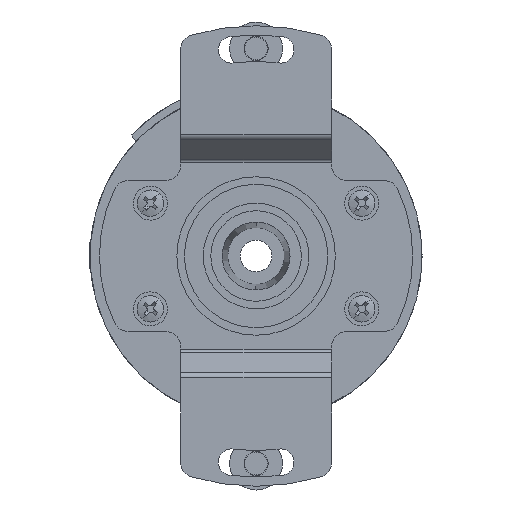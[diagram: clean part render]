
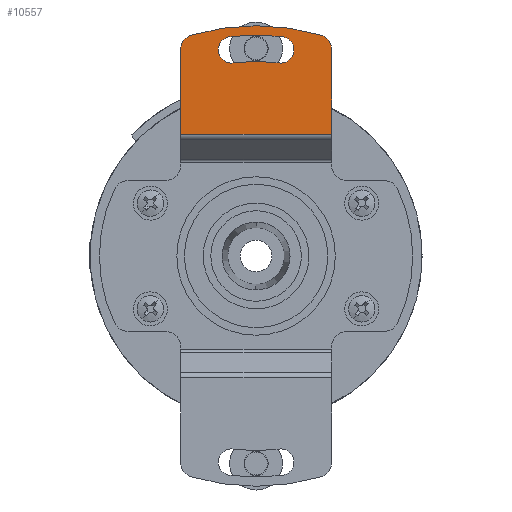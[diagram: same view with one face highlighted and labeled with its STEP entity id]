
A CAD part, front view. The second image highlights one B-rep face of the part: STEP entity #10557.
In plain terms, the highlighted planar face has unit normal (0, -1, 0).
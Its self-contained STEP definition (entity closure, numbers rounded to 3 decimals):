
#44 = VERTEX_POINT ( 'NONE', #8332 ) ;
#48 = DIRECTION ( 'NONE',  ( 0., 0., 1. ) ) ;
#53 = DIRECTION ( 'NONE',  ( 0., 0., 1. ) ) ;
#73 = AXIS2_PLACEMENT_3D ( 'NONE', #6099, #7408, #10243 ) ;
#134 = AXIS2_PLACEMENT_3D ( 'NONE', #4335, #14533, #48 ) ;
#201 = DIRECTION ( 'NONE',  ( 0., 0., 1. ) ) ;
#299 = PLANE ( 'NONE',  #73 ) ;
#579 = VERTEX_POINT ( 'NONE', #16776 ) ;
#839 = CIRCLE ( 'NONE', #15675, 1.75 ) ;
#918 = CARTESIAN_POINT ( 'NONE',  ( -25.57, -5.502, 3.043 ) ) ;
#1075 = EDGE_CURVE ( 'NONE', #11477, #2199, #4086, .T. ) ;
#1129 = CIRCLE ( 'NONE', #14144, 1.75 ) ;
#1203 = VECTOR ( 'NONE', #11312, 1000. ) ;
#1301 = DIRECTION ( 'NONE',  ( 0., 0., 1. ) ) ;
#1477 = CARTESIAN_POINT ( 'NONE',  ( 0., -5.502, 0. ) ) ;
#1503 = DIRECTION ( 'NONE',  ( 0., 0., -1. ) ) ;
#1533 = CIRCLE ( 'NONE', #2136, 30.5 ) ;
#1709 = CARTESIAN_POINT ( 'NONE',  ( -27.307, -5.502, -3.25 ) ) ;
#2136 = AXIS2_PLACEMENT_3D ( 'NONE', #16416, #6126, #11872 ) ;
#2153 = EDGE_LOOP ( 'NONE', ( #2321, #14232, #15640, #4517, #17085 ) ) ;
#2199 = VERTEX_POINT ( 'NONE', #13429 ) ;
#2321 = ORIENTED_EDGE ( 'NONE', *, *, #6141, .T. ) ;
#2685 = ORIENTED_EDGE ( 'NONE', *, *, #12615, .T. ) ;
#2912 = EDGE_CURVE ( 'NONE', #13088, #9688, #3463, .T. ) ;
#2956 = AXIS2_PLACEMENT_3D ( 'NONE', #1477, #15794, #53 ) ;
#3463 = CIRCLE ( 'NONE', #134, 2. ) ;
#3499 = CARTESIAN_POINT ( 'NONE',  ( 0., -5.502, 0. ) ) ;
#3729 = CARTESIAN_POINT ( 'NONE',  ( -16.119, -5.502, -10. ) ) ;
#4086 = CIRCLE ( 'NONE', #8599, 25.75 ) ;
#4335 = CARTESIAN_POINT ( 'NONE',  ( -27.354, -5.502, -8. ) ) ;
#4517 = ORIENTED_EDGE ( 'NONE', *, *, #1075, .T. ) ;
#4690 = EDGE_CURVE ( 'NONE', #44, #11477, #1129, .T. ) ;
#6099 = CARTESIAN_POINT ( 'NONE',  ( 0.173, -5.502, 0. ) ) ;
#6126 = DIRECTION ( 'NONE',  ( 0., -1., 0. ) ) ;
#6141 = EDGE_CURVE ( 'NONE', #8421, #579, #17219, .T. ) ;
#6327 = VERTEX_POINT ( 'NONE', #8631 ) ;
#6544 = CARTESIAN_POINT ( 'NONE',  ( -29.045, -5.502, -3.457 ) ) ;
#6602 = VERTEX_POINT ( 'NONE', #6654 ) ;
#6654 = CARTESIAN_POINT ( 'NONE',  ( -27.354, -5.502, 10. ) ) ;
#6773 = CARTESIAN_POINT ( 'NONE',  ( -16.119, -5.502, 10. ) ) ;
#6960 = ORIENTED_EDGE ( 'NONE', *, *, #12306, .F. ) ;
#7271 = EDGE_CURVE ( 'NONE', #579, #44, #839, .T. ) ;
#7295 = CARTESIAN_POINT ( 'NONE',  ( -27.307, -5.502, 3.25 ) ) ;
#7319 = FACE_OUTER_BOUND ( 'NONE', #15732, .T. ) ;
#7408 = DIRECTION ( 'NONE',  ( 0., 1., 0. ) ) ;
#7497 = CARTESIAN_POINT ( 'NONE',  ( -27.354, -5.502, 8. ) ) ;
#8184 = ORIENTED_EDGE ( 'NONE', *, *, #16029, .T. ) ;
#8332 = CARTESIAN_POINT ( 'NONE',  ( -27.307, -5.502, 5. ) ) ;
#8421 = VERTEX_POINT ( 'NONE', #6544 ) ;
#8473 = ORIENTED_EDGE ( 'NONE', *, *, #2912, .T. ) ;
#8599 = AXIS2_PLACEMENT_3D ( 'NONE', #3499, #12110, #14946 ) ;
#8631 = CARTESIAN_POINT ( 'NONE',  ( -29.274, -5.502, 8.561 ) ) ;
#8698 = DIRECTION ( 'NONE',  ( 0., 1., 0. ) ) ;
#8911 = DIRECTION ( 'NONE',  ( 0., 1., 0. ) ) ;
#9688 = VERTEX_POINT ( 'NONE', #11076 ) ;
#10125 = CARTESIAN_POINT ( 'NONE',  ( -16.119, -5.502, -10. ) ) ;
#10210 = DIRECTION ( 'NONE',  ( 0., 1., 0. ) ) ;
#10243 = DIRECTION ( 'NONE',  ( 0., 0., 1. ) ) ;
#10442 = VERTEX_POINT ( 'NONE', #6773 ) ;
#10557 = ADVANCED_FACE ( 'NONE', ( #16038, #7319 ), #299, .F. ) ;
#10970 = DIRECTION ( 'NONE',  ( -1., 0., 0. ) ) ;
#11052 = CIRCLE ( 'NONE', #15290, 2. ) ;
#11076 = CARTESIAN_POINT ( 'NONE',  ( -27.354, -5.502, -10. ) ) ;
#11312 = DIRECTION ( 'NONE',  ( 1., 0., 0. ) ) ;
#11407 = CARTESIAN_POINT ( 'NONE',  ( -30.827, -5.502, 10. ) ) ;
#11477 = VERTEX_POINT ( 'NONE', #918 ) ;
#11685 = LINE ( 'NONE', #11407, #1203 ) ;
#11872 = DIRECTION ( 'NONE',  ( 0., 0., -1. ) ) ;
#11889 = VECTOR ( 'NONE', #10970, 1000. ) ;
#12110 = DIRECTION ( 'NONE',  ( 0., -1., 0. ) ) ;
#12306 = EDGE_CURVE ( 'NONE', #6602, #10442, #11685, .T. ) ;
#12615 = EDGE_CURVE ( 'NONE', #6327, #13088, #1533, .T. ) ;
#12994 = DIRECTION ( 'NONE',  ( 0., 0., 1. ) ) ;
#13003 = CARTESIAN_POINT ( 'NONE',  ( -29.274, -5.502, -8.561 ) ) ;
#13088 = VERTEX_POINT ( 'NONE', #13003 ) ;
#13173 = DIRECTION ( 'NONE',  ( 0., -1., 0. ) ) ;
#13429 = CARTESIAN_POINT ( 'NONE',  ( -25.57, -5.502, -3.043 ) ) ;
#13913 = LINE ( 'NONE', #18475, #11889 ) ;
#13915 = EDGE_CURVE ( 'NONE', #15752, #9688, #13913, .T. ) ;
#14144 = AXIS2_PLACEMENT_3D ( 'NONE', #14276, #10210, #1301 ) ;
#14232 = ORIENTED_EDGE ( 'NONE', *, *, #7271, .T. ) ;
#14276 = CARTESIAN_POINT ( 'NONE',  ( -27.307, -5.502, 3.25 ) ) ;
#14382 = DIRECTION ( 'NONE',  ( 0., 0., 1. ) ) ;
#14533 = DIRECTION ( 'NONE',  ( 0., -1., 0. ) ) ;
#14946 = DIRECTION ( 'NONE',  ( 0., 0., 1. ) ) ;
#15290 = AXIS2_PLACEMENT_3D ( 'NONE', #7497, #13173, #201 ) ;
#15640 = ORIENTED_EDGE ( 'NONE', *, *, #4690, .T. ) ;
#15675 = AXIS2_PLACEMENT_3D ( 'NONE', #7295, #8698, #14382 ) ;
#15732 = EDGE_LOOP ( 'NONE', ( #2685, #8473, #17869, #15980, #6960, #8184 ) ) ;
#15752 = VERTEX_POINT ( 'NONE', #3729 ) ;
#15794 = DIRECTION ( 'NONE',  ( 0., 1., 0. ) ) ;
#15980 = ORIENTED_EDGE ( 'NONE', *, *, #16554, .F. ) ;
#16018 = EDGE_CURVE ( 'NONE', #2199, #8421, #17705, .T. ) ;
#16029 = EDGE_CURVE ( 'NONE', #6602, #6327, #11052, .T. ) ;
#16038 = FACE_BOUND ( 'NONE', #2153, .T. ) ;
#16416 = CARTESIAN_POINT ( 'NONE',  ( 0., -5.502, 0. ) ) ;
#16554 = EDGE_CURVE ( 'NONE', #10442, #15752, #17324, .T. ) ;
#16776 = CARTESIAN_POINT ( 'NONE',  ( -29.045, -5.502, 3.457 ) ) ;
#16802 = AXIS2_PLACEMENT_3D ( 'NONE', #1709, #8911, #12994 ) ;
#17085 = ORIENTED_EDGE ( 'NONE', *, *, #16018, .T. ) ;
#17219 = CIRCLE ( 'NONE', #2956, 29.25 ) ;
#17324 = LINE ( 'NONE', #10125, #17719 ) ;
#17705 = CIRCLE ( 'NONE', #16802, 1.75 ) ;
#17719 = VECTOR ( 'NONE', #1503, 1000. ) ;
#17869 = ORIENTED_EDGE ( 'NONE', *, *, #13915, .F. ) ;
#18475 = CARTESIAN_POINT ( 'NONE',  ( -15.83, -5.502, -10. ) ) ;
